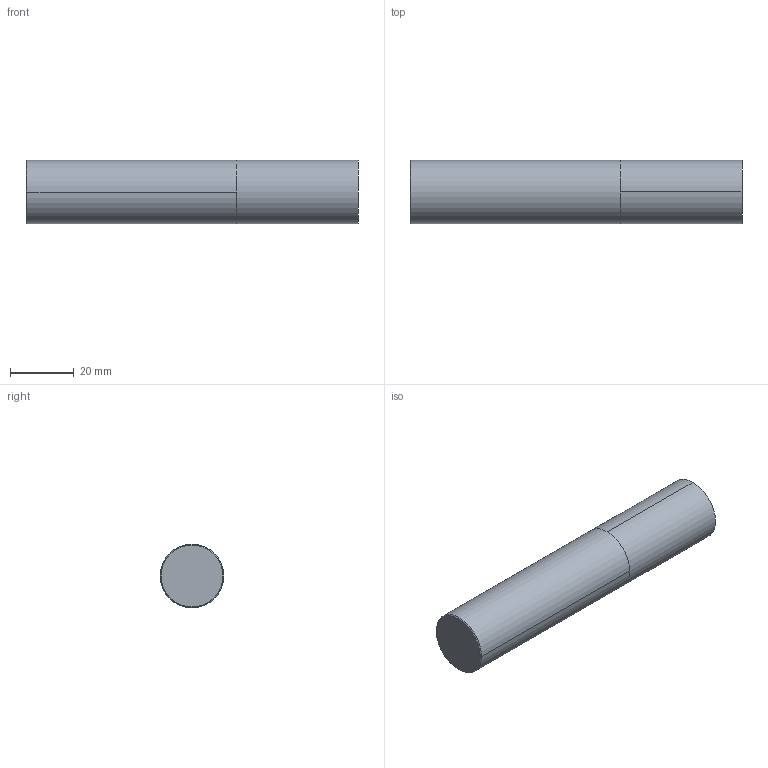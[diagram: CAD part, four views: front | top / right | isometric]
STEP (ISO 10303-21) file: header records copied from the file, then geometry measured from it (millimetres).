
FILE_DESCRIPTION (( 'STEP AP214' ), '1' );
FILE_NAME ('E5H22200.STEP', '2021-02-19T09:02:13', ( 'USER' ), ( 'Hewlett-Packard Company' ), 'SwSTEP 2.0', 'SolidWorks 2014', '' );
FILE_SCHEMA (( 'AUTOMOTIVE_DESIGN' ));
Length unit declared in the file: millimetre
Products named in the file (1): E5H22200
Bounding box: 104 x 20 x 20 mm (x, y, z)
Volume: 32669.8 mm3; surface area: 7780 mm2
Topology: 2 solids, 2 shells, 10 faces, 16 edges, 10 vertices
Faces by surface type: cylinder 4, plane 4, cone 2
Entity records: 321 total; most frequent: DIRECTION 48, CARTESIAN_POINT 37, ORIENTED_EDGE 32, AXIS2_PLACEMENT_3D 21, EDGE_CURVE 16, CIRCLE 10, EDGE_LOOP 10, ADVANCED_FACE 10
